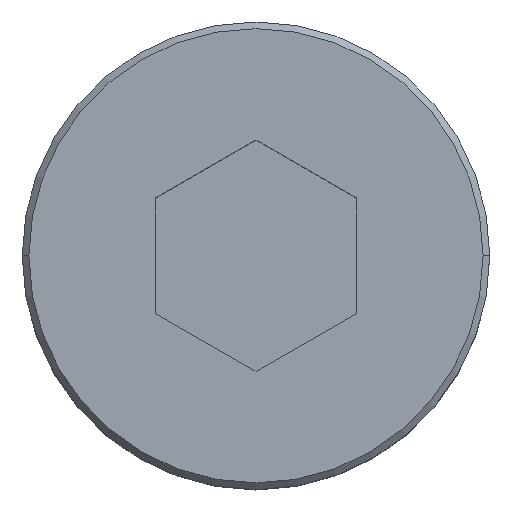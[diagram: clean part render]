
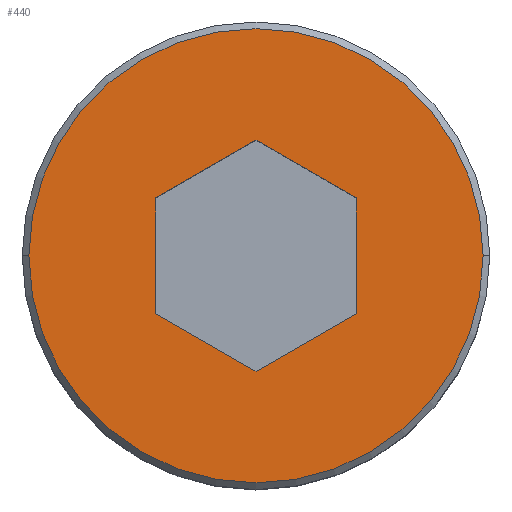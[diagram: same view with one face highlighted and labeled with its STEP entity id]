
A CAD part, top view. The second image highlights one B-rep face of the part: STEP entity #440.
In plain terms, the highlighted planar face has unit normal (0, 0, 1).
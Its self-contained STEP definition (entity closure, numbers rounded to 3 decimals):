
#3 = CARTESIAN_POINT ( 'NONE',  ( 0., 0., 4. ) ) ;
#5 = DIRECTION ( 'NONE',  ( 1., 0., 0. ) ) ;
#7 = EDGE_CURVE ( 'NONE', #104, #279, #270, .T. ) ;
#9 = ORIENTED_EDGE ( 'NONE', *, *, #34, .T. ) ;
#10 = VECTOR ( 'NONE', #451, 1000. ) ;
#14 = DIRECTION ( 'NONE',  ( 1., 0., 0. ) ) ;
#28 = LINE ( 'NONE', #476, #385 ) ;
#34 = EDGE_CURVE ( 'NONE', #279, #104, #427, .T. ) ;
#37 = ORIENTED_EDGE ( 'NONE', *, *, #85, .F. ) ;
#38 = CARTESIAN_POINT ( 'NONE',  ( -1.5, -0.866, 4. ) ) ;
#48 = VERTEX_POINT ( 'NONE', #322 ) ;
#55 = ORIENTED_EDGE ( 'NONE', *, *, #212, .F. ) ;
#79 = PLANE ( 'NONE',  #282 ) ;
#85 = EDGE_CURVE ( 'NONE', #185, #356, #28, .T. ) ;
#94 = DIRECTION ( 'NONE',  ( -0.866, -0.5, 0. ) ) ;
#104 = VERTEX_POINT ( 'NONE', #169 ) ;
#132 = EDGE_LOOP ( 'NONE', ( #9, #192 ) ) ;
#146 = CARTESIAN_POINT ( 'NONE',  ( 1.5, 0.866, 4. ) ) ;
#148 = CARTESIAN_POINT ( 'NONE',  ( -1.5, 0.866, 4. ) ) ;
#153 = DIRECTION ( 'NONE',  ( 0., 1., 0. ) ) ;
#162 = VECTOR ( 'NONE', #237, 1000. ) ;
#163 = ORIENTED_EDGE ( 'NONE', *, *, #313, .F. ) ;
#165 = DIRECTION ( 'NONE',  ( 0., 0., 1. ) ) ;
#169 = CARTESIAN_POINT ( 'NONE',  ( 3.4, 0., 4. ) ) ;
#176 = DIRECTION ( 'NONE',  ( -0.866, 0.5, 0. ) ) ;
#179 = VECTOR ( 'NONE', #176, 1000. ) ;
#185 = VERTEX_POINT ( 'NONE', #335 ) ;
#192 = ORIENTED_EDGE ( 'NONE', *, *, #7, .T. ) ;
#207 = VERTEX_POINT ( 'NONE', #146 ) ;
#212 = EDGE_CURVE ( 'NONE', #356, #207, #344, .T. ) ;
#220 = EDGE_CURVE ( 'NONE', #386, #446, #292, .T. ) ;
#232 = CARTESIAN_POINT ( 'NONE',  ( 0., 0., 4. ) ) ;
#237 = DIRECTION ( 'NONE',  ( 0.866, -0.5, 0. ) ) ;
#239 = AXIS2_PLACEMENT_3D ( 'NONE', #398, #319, #14 ) ;
#242 = ORIENTED_EDGE ( 'NONE', *, *, #220, .F. ) ;
#243 = EDGE_CURVE ( 'NONE', #207, #48, #500, .T. ) ;
#244 = DIRECTION ( 'NONE',  ( 0.866, 0.5, 0. ) ) ;
#246 = ORIENTED_EDGE ( 'NONE', *, *, #284, .F. ) ;
#261 = VECTOR ( 'NONE', #153, 1000. ) ;
#270 = CIRCLE ( 'NONE', #239, 3.4 ) ;
#276 = LINE ( 'NONE', #428, #162 ) ;
#279 = VERTEX_POINT ( 'NONE', #288 ) ;
#282 = AXIS2_PLACEMENT_3D ( 'NONE', #232, #387, #314 ) ;
#284 = EDGE_CURVE ( 'NONE', #48, #386, #404, .T. ) ;
#288 = CARTESIAN_POINT ( 'NONE',  ( -3.4, 0., 4. ) ) ;
#290 = CARTESIAN_POINT ( 'NONE',  ( -1.5, 0.866, 4. ) ) ;
#292 = LINE ( 'NONE', #148, #10 ) ;
#306 = ORIENTED_EDGE ( 'NONE', *, *, #243, .F. ) ;
#310 = FACE_BOUND ( 'NONE', #379, .T. ) ;
#313 = EDGE_CURVE ( 'NONE', #446, #185, #276, .T. ) ;
#314 = DIRECTION ( 'NONE',  ( 1., 0., 0. ) ) ;
#319 = DIRECTION ( 'NONE',  ( 0., 0., 1. ) ) ;
#322 = CARTESIAN_POINT ( 'NONE',  ( 0., 1.732, 4. ) ) ;
#324 = AXIS2_PLACEMENT_3D ( 'NONE', #3, #165, #5 ) ;
#335 = CARTESIAN_POINT ( 'NONE',  ( 0., -1.732, 4. ) ) ;
#344 = LINE ( 'NONE', #483, #261 ) ;
#356 = VERTEX_POINT ( 'NONE', #361 ) ;
#361 = CARTESIAN_POINT ( 'NONE',  ( 1.5, -0.866, 4. ) ) ;
#378 = CARTESIAN_POINT ( 'NONE',  ( 1.5, 0.866, 4. ) ) ;
#379 = EDGE_LOOP ( 'NONE', ( #306, #55, #37, #163, #242, #246 ) ) ;
#385 = VECTOR ( 'NONE', #244, 1000. ) ;
#386 = VERTEX_POINT ( 'NONE', #290 ) ;
#387 = DIRECTION ( 'NONE',  ( 0., 0., 1. ) ) ;
#398 = CARTESIAN_POINT ( 'NONE',  ( 0., 0., 4. ) ) ;
#404 = LINE ( 'NONE', #471, #509 ) ;
#427 = CIRCLE ( 'NONE', #324, 3.4 ) ;
#428 = CARTESIAN_POINT ( 'NONE',  ( -1.5, -0.866, 4. ) ) ;
#440 = ADVANCED_FACE ( 'NONE', ( #310, #462 ), #79, .T. ) ;
#446 = VERTEX_POINT ( 'NONE', #38 ) ;
#451 = DIRECTION ( 'NONE',  ( 0., -1., 0. ) ) ;
#462 = FACE_OUTER_BOUND ( 'NONE', #132, .T. ) ;
#471 = CARTESIAN_POINT ( 'NONE',  ( 0., 1.732, 4. ) ) ;
#476 = CARTESIAN_POINT ( 'NONE',  ( 0., -1.732, 4. ) ) ;
#483 = CARTESIAN_POINT ( 'NONE',  ( 1.5, -0.866, 4. ) ) ;
#500 = LINE ( 'NONE', #378, #179 ) ;
#509 = VECTOR ( 'NONE', #94, 1000. ) ;
